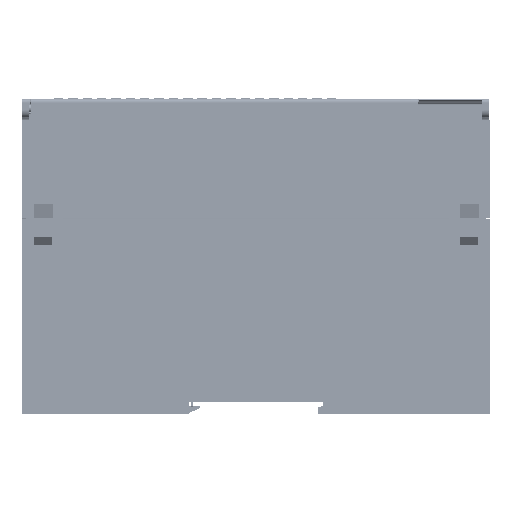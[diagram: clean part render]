
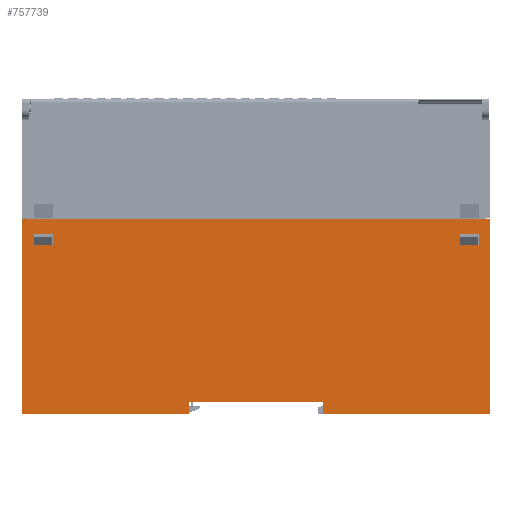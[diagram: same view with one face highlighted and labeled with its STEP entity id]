
A CAD part, left-side view. The second image highlights one B-rep face of the part: STEP entity #757739.
In plain terms, the highlighted planar face has unit normal (-1, 0, 0).
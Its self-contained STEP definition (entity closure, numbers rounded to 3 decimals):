
#5566 = VECTOR ( 'NONE', #740931, 1000. ) ;
#9116 = LINE ( 'NONE', #741893, #635047 ) ;
#24863 = LINE ( 'NONE', #320979, #5566 ) ;
#41517 = VERTEX_POINT ( 'NONE', #546394 ) ;
#49295 = CARTESIAN_POINT ( 'NONE',  ( -80.271, -47.805, 30.284 ) ) ;
#52213 = CARTESIAN_POINT ( 'NONE',  ( -80.271, -3.605, 70.284 ) ) ;
#56826 = LINE ( 'NONE', #294555, #692067 ) ;
#66656 = DIRECTION ( 'NONE',  ( 0., -1., 0. ) ) ;
#93494 = VERTEX_POINT ( 'NONE', #666478 ) ;
#98685 = VECTOR ( 'NONE', #569194, 1000. ) ;
#99986 = FACE_BOUND ( 'NONE', #463287, .T. ) ;
#101673 = EDGE_CURVE ( 'NONE', #491819, #193824, #352402, .T. ) ;
#107881 = CARTESIAN_POINT ( 'NONE',  ( -80.271, 68.195, 70.284 ) ) ;
#109355 = FACE_BOUND ( 'NONE', #160901, .T. ) ;
#115713 = VECTOR ( 'NONE', #473865, 1000. ) ;
#117754 = CARTESIAN_POINT ( 'NONE',  ( -80.271, 68.195, 23.284 ) ) ;
#125999 = CARTESIAN_POINT ( 'NONE',  ( -80.271, 31.895, -18.367 ) ) ;
#134057 = VERTEX_POINT ( 'NONE', #624108 ) ;
#140451 = CARTESIAN_POINT ( 'NONE',  ( -80.271, -47.805, 70.284 ) ) ;
#146763 = VECTOR ( 'NONE', #557848, 1000. ) ;
#153830 = EDGE_CURVE ( 'NONE', #319679, #93494, #24863, .T. ) ;
#160901 = EDGE_LOOP ( 'NONE', ( #172169, #647370, #331865, #455414 ) ) ;
#161759 = DIRECTION ( 'NONE',  ( 0., 0., 1. ) ) ;
#163431 = LINE ( 'NONE', #481734, #115713 ) ;
#171359 = EDGE_CURVE ( 'NONE', #500069, #457234, #746748, .T. ) ;
#172169 = ORIENTED_EDGE ( 'NONE', *, *, #286279, .T. ) ;
#180827 = VECTOR ( 'NONE', #246009, 1000. ) ;
#183391 = CARTESIAN_POINT ( 'NONE',  ( -80.271, 76.195, -21.367 ) ) ;
#190400 = VECTOR ( 'NONE', #325987, 1000. ) ;
#193824 = VERTEX_POINT ( 'NONE', #306050 ) ;
#207399 = ORIENTED_EDGE ( 'NONE', *, *, #551096, .T. ) ;
#213197 = VECTOR ( 'NONE', #762114, 1000. ) ;
#224049 = VECTOR ( 'NONE', #161759, 1000. ) ;
#226110 = EDGE_CURVE ( 'NONE', #193824, #536500, #551918, .T. ) ;
#246009 = DIRECTION ( 'NONE',  ( 0., -1., 0. ) ) ;
#248109 = CARTESIAN_POINT ( 'NONE',  ( -80.271, -3.605, -18.367 ) ) ;
#257196 = LINE ( 'NONE', #768067, #315066 ) ;
#269036 = AXIS2_PLACEMENT_3D ( 'NONE', #637719, #756208, #761480 ) ;
#274550 = VERTEX_POINT ( 'NONE', #183391 ) ;
#280525 = DIRECTION ( 'NONE',  ( 0., 0., 1. ) ) ;
#282690 = CARTESIAN_POINT ( 'NONE',  ( -80.271, 73.195, 70.284 ) ) ;
#286279 = EDGE_CURVE ( 'NONE', #536500, #689427, #257196, .T. ) ;
#291119 = LINE ( 'NONE', #382482, #416355 ) ;
#294555 = CARTESIAN_POINT ( 'NONE',  ( -80.271, -44.805, 70.284 ) ) ;
#295865 = ORIENTED_EDGE ( 'NONE', *, *, #713672, .T. ) ;
#306050 = CARTESIAN_POINT ( 'NONE',  ( -80.271, -39.805, 23.284 ) ) ;
#315066 = VECTOR ( 'NONE', #391644, 1000. ) ;
#319679 = VERTEX_POINT ( 'NONE', #577161 ) ;
#320979 = CARTESIAN_POINT ( 'NONE',  ( -80.271, 11.235, 26.284 ) ) ;
#325987 = DIRECTION ( 'NONE',  ( 0., 0., 1. ) ) ;
#326291 = CARTESIAN_POINT ( 'NONE',  ( -80.271, 11.235, 30.284 ) ) ;
#331865 = ORIENTED_EDGE ( 'NONE', *, *, #101673, .T. ) ;
#348887 = LINE ( 'NONE', #52213, #146763 ) ;
#352402 = LINE ( 'NONE', #654608, #660384 ) ;
#354087 = LINE ( 'NONE', #140451, #190400 ) ;
#362378 = VERTEX_POINT ( 'NONE', #49295 ) ;
#368816 = EDGE_CURVE ( 'NONE', #504057, #705995, #163431, .T. ) ;
#376458 = CARTESIAN_POINT ( 'NONE',  ( -80.271, -39.805, 26.284 ) ) ;
#380032 = ORIENTED_EDGE ( 'NONE', *, *, #368816, .T. ) ;
#381074 = ORIENTED_EDGE ( 'NONE', *, *, #641525, .T. ) ;
#382482 = CARTESIAN_POINT ( 'NONE',  ( -80.271, 76.195, 70.284 ) ) ;
#388946 = ORIENTED_EDGE ( 'NONE', *, *, #501420, .T. ) ;
#391644 = DIRECTION ( 'NONE',  ( 0., -1., 0. ) ) ;
#402489 = LINE ( 'NONE', #550312, #180827 ) ;
#408853 = VECTOR ( 'NONE', #280525, 1000. ) ;
#410535 = DIRECTION ( 'NONE',  ( 0., 0., -1. ) ) ;
#416355 = VECTOR ( 'NONE', #689110, 1000. ) ;
#420747 = ORIENTED_EDGE ( 'NONE', *, *, #484957, .T. ) ;
#436303 = CARTESIAN_POINT ( 'NONE',  ( -80.271, -3.605, -21.367 ) ) ;
#444056 = CARTESIAN_POINT ( 'NONE',  ( -80.271, -47.805, -21.367 ) ) ;
#444192 = EDGE_CURVE ( 'NONE', #705995, #362378, #354087, .T. ) ;
#453538 = ORIENTED_EDGE ( 'NONE', *, *, #773462, .T. ) ;
#454777 = PLANE ( 'NONE',  #269036 ) ;
#455414 = ORIENTED_EDGE ( 'NONE', *, *, #226110, .T. ) ;
#457234 = VERTEX_POINT ( 'NONE', #692206 ) ;
#463287 = EDGE_LOOP ( 'NONE', ( #782281, #207399, #715599, #453538 ) ) ;
#473865 = DIRECTION ( 'NONE',  ( 0., -1., 0. ) ) ;
#481734 = CARTESIAN_POINT ( 'NONE',  ( -80.271, 11.235, -21.367 ) ) ;
#484957 = EDGE_CURVE ( 'NONE', #134057, #688786, #726109, .T. ) ;
#490691 = EDGE_LOOP ( 'NONE', ( #763405, #420747, #751407, #381074, #380032, #498436, #388946, #295865 ) ) ;
#491819 = VERTEX_POINT ( 'NONE', #764370 ) ;
#498436 = ORIENTED_EDGE ( 'NONE', *, *, #444192, .T. ) ;
#500069 = VERTEX_POINT ( 'NONE', #117754 ) ;
#501420 = EDGE_CURVE ( 'NONE', #362378, #41517, #570027, .T. ) ;
#504057 = VERTEX_POINT ( 'NONE', #436303 ) ;
#505553 = LINE ( 'NONE', #107881, #659948 ) ;
#536500 = VERTEX_POINT ( 'NONE', #376458 ) ;
#546394 = CARTESIAN_POINT ( 'NONE',  ( -80.271, 76.195, 30.284 ) ) ;
#550312 = CARTESIAN_POINT ( 'NONE',  ( -80.271, 11.235, -18.367 ) ) ;
#551096 = EDGE_CURVE ( 'NONE', #93494, #500069, #505553, .T. ) ;
#551607 = LINE ( 'NONE', #282690, #224049 ) ;
#551918 = LINE ( 'NONE', #574460, #98685 ) ;
#556271 = EDGE_CURVE ( 'NONE', #688786, #712495, #402489, .T. ) ;
#557848 = DIRECTION ( 'NONE',  ( 0., 0., -1. ) ) ;
#569194 = DIRECTION ( 'NONE',  ( 0., 0., 1. ) ) ;
#570027 = LINE ( 'NONE', #326291, #213197 ) ;
#574460 = CARTESIAN_POINT ( 'NONE',  ( -80.271, -39.805, 70.284 ) ) ;
#577161 = CARTESIAN_POINT ( 'NONE',  ( -80.271, 73.195, 26.284 ) ) ;
#583626 = DIRECTION ( 'NONE',  ( 0., 1., 0. ) ) ;
#613327 = DIRECTION ( 'NONE',  ( 0., 0., -1. ) ) ;
#624108 = CARTESIAN_POINT ( 'NONE',  ( -80.271, 31.895, -21.367 ) ) ;
#635047 = VECTOR ( 'NONE', #66656, 1000. ) ;
#637719 = CARTESIAN_POINT ( 'NONE',  ( -80.271, 11.235, 70.284 ) ) ;
#638603 = EDGE_CURVE ( 'NONE', #689427, #491819, #56826, .T. ) ;
#641525 = EDGE_CURVE ( 'NONE', #712495, #504057, #348887, .T. ) ;
#647370 = ORIENTED_EDGE ( 'NONE', *, *, #638603, .T. ) ;
#649340 = CARTESIAN_POINT ( 'NONE',  ( -80.271, 31.895, 70.284 ) ) ;
#654608 = CARTESIAN_POINT ( 'NONE',  ( -80.271, 11.235, 23.284 ) ) ;
#659948 = VECTOR ( 'NONE', #613327, 1000. ) ;
#660384 = VECTOR ( 'NONE', #705915, 1000. ) ;
#662021 = EDGE_CURVE ( 'NONE', #274550, #134057, #9116, .T. ) ;
#666478 = CARTESIAN_POINT ( 'NONE',  ( -80.271, 68.195, 26.284 ) ) ;
#688786 = VERTEX_POINT ( 'NONE', #125999 ) ;
#689110 = DIRECTION ( 'NONE',  ( 0., 0., -1. ) ) ;
#689427 = VERTEX_POINT ( 'NONE', #767508 ) ;
#692067 = VECTOR ( 'NONE', #410535, 1000. ) ;
#692206 = CARTESIAN_POINT ( 'NONE',  ( -80.271, 73.195, 23.284 ) ) ;
#705915 = DIRECTION ( 'NONE',  ( 0., 1., 0. ) ) ;
#705995 = VERTEX_POINT ( 'NONE', #444056 ) ;
#712495 = VERTEX_POINT ( 'NONE', #248109 ) ;
#713672 = EDGE_CURVE ( 'NONE', #41517, #274550, #291119, .T. ) ;
#715599 = ORIENTED_EDGE ( 'NONE', *, *, #171359, .T. ) ;
#716098 = FACE_OUTER_BOUND ( 'NONE', #490691, .T. ) ;
#726109 = LINE ( 'NONE', #649340, #408853 ) ;
#740931 = DIRECTION ( 'NONE',  ( 0., -1., 0. ) ) ;
#741893 = CARTESIAN_POINT ( 'NONE',  ( -80.271, 11.235, -21.367 ) ) ;
#746748 = LINE ( 'NONE', #766591, #775314 ) ;
#751407 = ORIENTED_EDGE ( 'NONE', *, *, #556271, .T. ) ;
#756208 = DIRECTION ( 'NONE',  ( -1., 0., 0. ) ) ;
#757739 = ADVANCED_FACE ( 'NONE', ( #109355, #99986, #716098 ), #454777, .T. ) ;
#761480 = DIRECTION ( 'NONE',  ( 0., 0., 1. ) ) ;
#762114 = DIRECTION ( 'NONE',  ( 0., 1., 0. ) ) ;
#763405 = ORIENTED_EDGE ( 'NONE', *, *, #662021, .T. ) ;
#764370 = CARTESIAN_POINT ( 'NONE',  ( -80.271, -44.805, 23.284 ) ) ;
#766591 = CARTESIAN_POINT ( 'NONE',  ( -80.271, 11.235, 23.284 ) ) ;
#767508 = CARTESIAN_POINT ( 'NONE',  ( -80.271, -44.805, 26.284 ) ) ;
#768067 = CARTESIAN_POINT ( 'NONE',  ( -80.271, 11.235, 26.284 ) ) ;
#773462 = EDGE_CURVE ( 'NONE', #457234, #319679, #551607, .T. ) ;
#775314 = VECTOR ( 'NONE', #583626, 1000. ) ;
#782281 = ORIENTED_EDGE ( 'NONE', *, *, #153830, .T. ) ;
